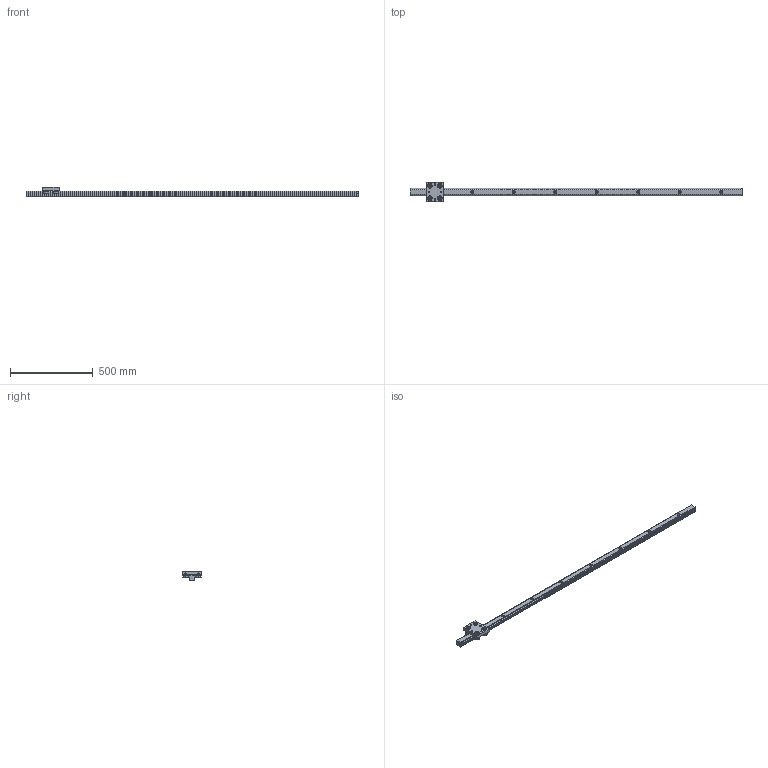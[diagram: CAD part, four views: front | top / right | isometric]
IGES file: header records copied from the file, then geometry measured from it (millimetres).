
Global section: file name: No Iges File Name specified; native system: AutoDesk Inventor R11.0; preprocessor: AutoDesk Inventor Iges Exporter R11.0; author: No Author specified; organization: No Organization specified; date: 20170718.165053; units: millimetre
Bounding box: 2000 x 120 x 54.3 mm (x, y, z)
Surface area: 373293.6 mm2 (no closed solid volume)
Topology: 0 solids, 0 shells, 257 faces, 1546 edges, 1546 vertices
Faces by surface type: bspline 257
